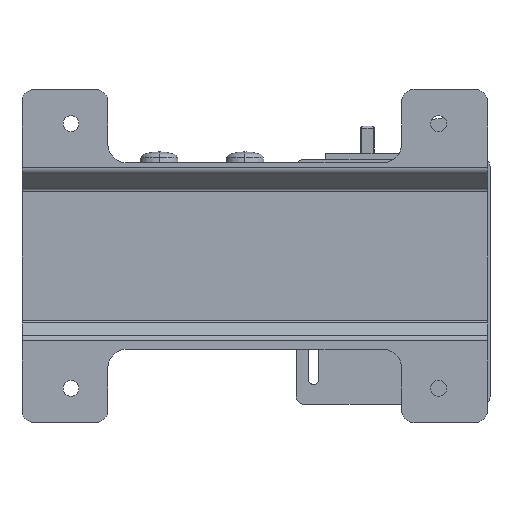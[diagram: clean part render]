
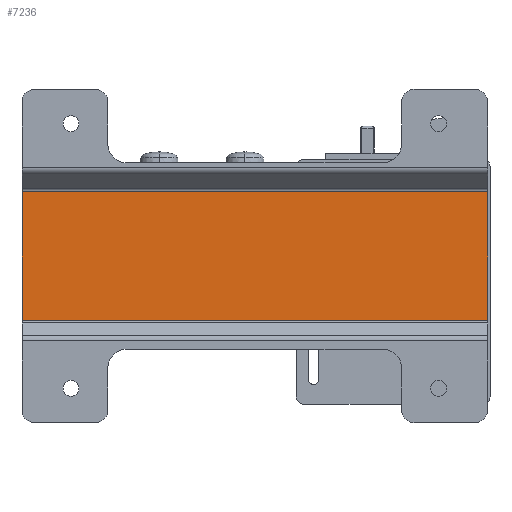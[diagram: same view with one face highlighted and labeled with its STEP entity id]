
A CAD part, front view. The second image highlights one B-rep face of the part: STEP entity #7236.
In plain terms, the highlighted planar face has unit normal (0, -1, 0).
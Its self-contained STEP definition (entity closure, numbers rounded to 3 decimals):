
#370 = EDGE_CURVE ( 'NONE', #14446, #3806, #2897, .T. ) ;
#387 = CARTESIAN_POINT ( 'NONE',  ( 134., -16.5, -5.732 ) ) ;
#2196 = EDGE_CURVE ( 'NONE', #18483, #14446, #8510, .T. ) ;
#2327 = VERTEX_POINT ( 'NONE', #18390 ) ;
#2430 = FACE_OUTER_BOUND ( 'NONE', #4912, .T. ) ;
#2897 = LINE ( 'NONE', #5043, #12279 ) ;
#3250 = DIRECTION ( 'NONE',  ( 0., 1., 0. ) ) ;
#3294 = DIRECTION ( 'NONE',  ( 0., 0., -1. ) ) ;
#3806 = VERTEX_POINT ( 'NONE', #17718 ) ;
#4912 = EDGE_LOOP ( 'NONE', ( #12423, #11140, #13258, #16513 ) ) ;
#5043 = CARTESIAN_POINT ( 'NONE',  ( -56., -16.5, -5.732 ) ) ;
#5402 = DIRECTION ( 'NONE',  ( 0., 0., -1. ) ) ;
#6638 = VECTOR ( 'NONE', #21960, 1000. ) ;
#7236 = ADVANCED_FACE ( 'NONE', ( #2430 ), #25319, .F. ) ;
#8102 = CARTESIAN_POINT ( 'NONE',  ( 134., -16.5, -5.732 ) ) ;
#8510 = LINE ( 'NONE', #8102, #6638 ) ;
#11140 = ORIENTED_EDGE ( 'NONE', *, *, #24704, .F. ) ;
#11481 = DIRECTION ( 'NONE',  ( -1., 0., 0. ) ) ;
#11893 = AXIS2_PLACEMENT_3D ( 'NONE', #15184, #3250, #17561 ) ;
#12279 = VECTOR ( 'NONE', #3294, 1000. ) ;
#12418 = EDGE_CURVE ( 'NONE', #18483, #2327, #12719, .T. ) ;
#12423 = ORIENTED_EDGE ( 'NONE', *, *, #370, .T. ) ;
#12430 = CARTESIAN_POINT ( 'NONE',  ( -56., -16.5, -5.732 ) ) ;
#12719 = LINE ( 'NONE', #13427, #18963 ) ;
#13258 = ORIENTED_EDGE ( 'NONE', *, *, #12418, .F. ) ;
#13427 = CARTESIAN_POINT ( 'NONE',  ( 134., -16.5, -5.732 ) ) ;
#14446 = VERTEX_POINT ( 'NONE', #12430 ) ;
#15184 = CARTESIAN_POINT ( 'NONE',  ( 134., -16.5, -5.732 ) ) ;
#16077 = LINE ( 'NONE', #21341, #20462 ) ;
#16513 = ORIENTED_EDGE ( 'NONE', *, *, #2196, .T. ) ;
#17561 = DIRECTION ( 'NONE',  ( 0., 0., 1. ) ) ;
#17718 = CARTESIAN_POINT ( 'NONE',  ( -56., -16.5, -58.268 ) ) ;
#18390 = CARTESIAN_POINT ( 'NONE',  ( 134., -16.5, -58.268 ) ) ;
#18483 = VERTEX_POINT ( 'NONE', #387 ) ;
#18963 = VECTOR ( 'NONE', #5402, 1000. ) ;
#20462 = VECTOR ( 'NONE', #11481, 1000. ) ;
#21341 = CARTESIAN_POINT ( 'NONE',  ( 134., -16.5, -58.268 ) ) ;
#21960 = DIRECTION ( 'NONE',  ( -1., 0., 0. ) ) ;
#24704 = EDGE_CURVE ( 'NONE', #2327, #3806, #16077, .T. ) ;
#25319 = PLANE ( 'NONE',  #11893 ) ;
